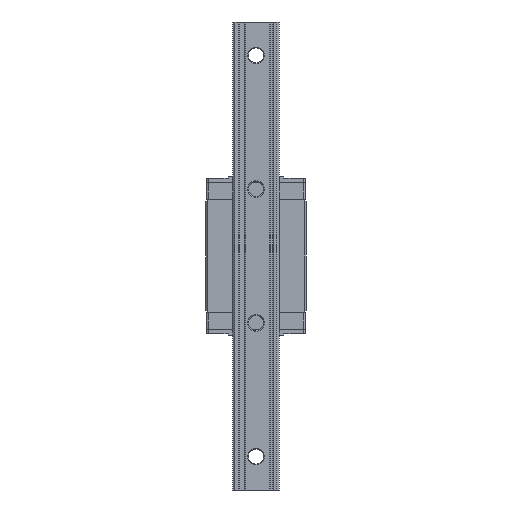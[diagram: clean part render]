
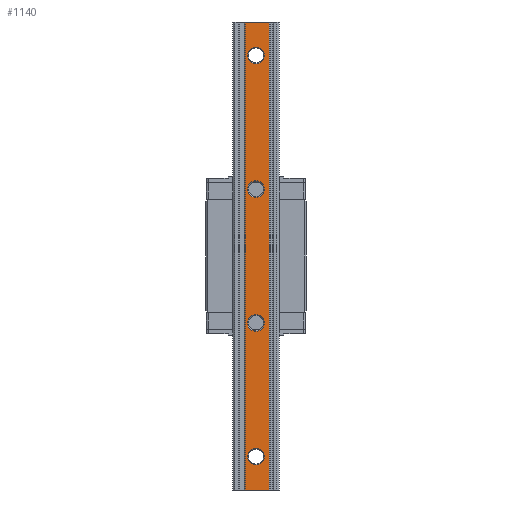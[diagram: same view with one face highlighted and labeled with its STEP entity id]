
A CAD part, front view. The second image highlights one B-rep face of the part: STEP entity #1140.
In plain terms, the highlighted planar face has unit normal (0, -1, 0).
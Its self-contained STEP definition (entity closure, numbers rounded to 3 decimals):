
#81 = EDGE_LOOP ( 'NONE', ( #10466, #1139 ) ) ;
#234 = ORIENTED_EDGE ( 'NONE', *, *, #8048, .F. ) ;
#465 = EDGE_CURVE ( 'NONE', #13525, #17528, #5780, .T. ) ;
#817 = CARTESIAN_POINT ( 'NONE',  ( -6.5, -22.8, 140. ) ) ;
#1001 = CARTESIAN_POINT ( 'NONE',  ( 0., -22.8, -45. ) ) ;
#1036 = DIRECTION ( 'NONE',  ( 0., 0., 1. ) ) ;
#1132 = ORIENTED_EDGE ( 'NONE', *, *, #7396, .T. ) ;
#1139 = ORIENTED_EDGE ( 'NONE', *, *, #18065, .T. ) ;
#1140 = ADVANCED_FACE ( 'NONE', ( #6988, #7430, #11222, #17123, #9783 ), #14235, .F. ) ;
#1448 = CARTESIAN_POINT ( 'NONE',  ( -6.5, -22.8, 140. ) ) ;
#1937 = CIRCLE ( 'NONE', #11774, 5. ) ;
#2446 = AXIS2_PLACEMENT_3D ( 'NONE', #2466, #6898, #8436 ) ;
#2463 = CARTESIAN_POINT ( 'NONE',  ( 0., -22.8, 40. ) ) ;
#2466 = CARTESIAN_POINT ( 'NONE',  ( -6.5, -22.8, 140. ) ) ;
#2493 = VECTOR ( 'NONE', #17265, 1000. ) ;
#2805 = LINE ( 'NONE', #11365, #2493 ) ;
#3306 = AXIS2_PLACEMENT_3D ( 'NONE', #11834, #6038, #17726 ) ;
#3368 = AXIS2_PLACEMENT_3D ( 'NONE', #4239, #17723, #11832 ) ;
#3412 = ORIENTED_EDGE ( 'NONE', *, *, #3823, .T. ) ;
#3739 = DIRECTION ( 'NONE',  ( 0., 1., 0. ) ) ;
#3823 = EDGE_CURVE ( 'NONE', #12380, #6261, #11601, .T. ) ;
#4159 = VERTEX_POINT ( 'NONE', #14047 ) ;
#4239 = CARTESIAN_POINT ( 'NONE',  ( 0., -22.8, 40. ) ) ;
#4322 = EDGE_CURVE ( 'NONE', #4696, #14322, #7845, .T. ) ;
#4344 = CARTESIAN_POINT ( 'NONE',  ( 0., -22.8, 35. ) ) ;
#4696 = VERTEX_POINT ( 'NONE', #817 ) ;
#4779 = CARTESIAN_POINT ( 'NONE',  ( -6.5, -22.8, 140. ) ) ;
#4845 = DIRECTION ( 'NONE',  ( 0., 0., 1. ) ) ;
#4998 = CARTESIAN_POINT ( 'NONE',  ( 0., -22.8, -115. ) ) ;
#5289 = EDGE_CURVE ( 'NONE', #13408, #10338, #1937, .T. ) ;
#5780 = CIRCLE ( 'NONE', #10417, 5. ) ;
#5816 = AXIS2_PLACEMENT_3D ( 'NONE', #9967, #18849, #6975 ) ;
#5928 = VECTOR ( 'NONE', #10838, 1000. ) ;
#6038 = DIRECTION ( 'NONE',  ( 0., 1., 0. ) ) ;
#6057 = AXIS2_PLACEMENT_3D ( 'NONE', #16403, #11952, #17843 ) ;
#6132 = CARTESIAN_POINT ( 'NONE',  ( 0., -22.8, 125. ) ) ;
#6149 = AXIS2_PLACEMENT_3D ( 'NONE', #18395, #3739, #12310 ) ;
#6261 = VERTEX_POINT ( 'NONE', #1001 ) ;
#6658 = EDGE_CURVE ( 'NONE', #4159, #12382, #2805, .T. ) ;
#6898 = DIRECTION ( 'NONE',  ( 0., 1., 0. ) ) ;
#6975 = DIRECTION ( 'NONE',  ( 0., 0., 1. ) ) ;
#6988 = FACE_BOUND ( 'NONE', #12867, .T. ) ;
#7396 = EDGE_CURVE ( 'NONE', #6261, #12380, #12518, .T. ) ;
#7430 = FACE_BOUND ( 'NONE', #10547, .T. ) ;
#7819 = DIRECTION ( 'NONE',  ( 0., 1., 0. ) ) ;
#7845 = LINE ( 'NONE', #4779, #5928 ) ;
#8048 = EDGE_CURVE ( 'NONE', #4696, #4159, #10369, .T. ) ;
#8436 = DIRECTION ( 'NONE',  ( 0., 0., 1. ) ) ;
#8724 = CARTESIAN_POINT ( 'NONE',  ( 8., -22.8, -140. ) ) ;
#9334 = CARTESIAN_POINT ( 'NONE',  ( 0., -22.8, 115. ) ) ;
#9404 = AXIS2_PLACEMENT_3D ( 'NONE', #15069, #7819, #4845 ) ;
#9783 = FACE_OUTER_BOUND ( 'NONE', #13664, .T. ) ;
#9820 = CARTESIAN_POINT ( 'NONE',  ( -6.5, -22.8, -140. ) ) ;
#9967 = CARTESIAN_POINT ( 'NONE',  ( 0., -22.8, 120. ) ) ;
#10236 = EDGE_CURVE ( 'NONE', #14492, #11313, #15581, .T. ) ;
#10338 = VERTEX_POINT ( 'NONE', #18344 ) ;
#10369 = LINE ( 'NONE', #1448, #11926 ) ;
#10417 = AXIS2_PLACEMENT_3D ( 'NONE', #13965, #15316, #17054 ) ;
#10466 = ORIENTED_EDGE ( 'NONE', *, *, #465, .T. ) ;
#10537 = ORIENTED_EDGE ( 'NONE', *, *, #11304, .T. ) ;
#10547 = EDGE_LOOP ( 'NONE', ( #14697, #10537 ) ) ;
#10838 = DIRECTION ( 'NONE',  ( 0., 0., -1. ) ) ;
#11222 = FACE_BOUND ( 'NONE', #12059, .T. ) ;
#11304 = EDGE_CURVE ( 'NONE', #11313, #14492, #18494, .T. ) ;
#11313 = VERTEX_POINT ( 'NONE', #4998 ) ;
#11365 = CARTESIAN_POINT ( 'NONE',  ( 8., -22.8, 140. ) ) ;
#11373 = ORIENTED_EDGE ( 'NONE', *, *, #6658, .F. ) ;
#11601 = CIRCLE ( 'NONE', #3306, 5. ) ;
#11631 = DIRECTION ( 'NONE',  ( 1., 0., 0. ) ) ;
#11774 = AXIS2_PLACEMENT_3D ( 'NONE', #2463, #12967, #1036 ) ;
#11832 = DIRECTION ( 'NONE',  ( 0., 0., 1. ) ) ;
#11834 = CARTESIAN_POINT ( 'NONE',  ( 0., -22.8, -40. ) ) ;
#11926 = VECTOR ( 'NONE', #11631, 1000. ) ;
#11952 = DIRECTION ( 'NONE',  ( 0., 1., 0. ) ) ;
#12059 = EDGE_LOOP ( 'NONE', ( #18639, #15648 ) ) ;
#12083 = ORIENTED_EDGE ( 'NONE', *, *, #17367, .T. ) ;
#12310 = DIRECTION ( 'NONE',  ( 0., 0., 1. ) ) ;
#12380 = VERTEX_POINT ( 'NONE', #16065 ) ;
#12382 = VERTEX_POINT ( 'NONE', #8724 ) ;
#12518 = CIRCLE ( 'NONE', #6057, 5. ) ;
#12867 = EDGE_LOOP ( 'NONE', ( #1132, #3412 ) ) ;
#12967 = DIRECTION ( 'NONE',  ( 0., 1., 0. ) ) ;
#13203 = CIRCLE ( 'NONE', #3368, 5. ) ;
#13408 = VERTEX_POINT ( 'NONE', #4344 ) ;
#13525 = VERTEX_POINT ( 'NONE', #9334 ) ;
#13664 = EDGE_LOOP ( 'NONE', ( #12083, #11373, #234, #15151 ) ) ;
#13965 = CARTESIAN_POINT ( 'NONE',  ( 0., -22.8, 120. ) ) ;
#14047 = CARTESIAN_POINT ( 'NONE',  ( 8., -22.8, 140. ) ) ;
#14155 = CIRCLE ( 'NONE', #5816, 5. ) ;
#14235 = PLANE ( 'NONE',  #2446 ) ;
#14274 = DIRECTION ( 'NONE',  ( 1., 0., 0. ) ) ;
#14322 = VERTEX_POINT ( 'NONE', #15826 ) ;
#14452 = VECTOR ( 'NONE', #14274, 1000. ) ;
#14492 = VERTEX_POINT ( 'NONE', #17650 ) ;
#14697 = ORIENTED_EDGE ( 'NONE', *, *, #10236, .T. ) ;
#15069 = CARTESIAN_POINT ( 'NONE',  ( 0., -22.8, -120. ) ) ;
#15151 = ORIENTED_EDGE ( 'NONE', *, *, #4322, .T. ) ;
#15316 = DIRECTION ( 'NONE',  ( 0., 1., 0. ) ) ;
#15519 = LINE ( 'NONE', #9820, #14452 ) ;
#15581 = CIRCLE ( 'NONE', #9404, 5. ) ;
#15648 = ORIENTED_EDGE ( 'NONE', *, *, #17409, .T. ) ;
#15826 = CARTESIAN_POINT ( 'NONE',  ( -6.5, -22.8, -140. ) ) ;
#16065 = CARTESIAN_POINT ( 'NONE',  ( 0., -22.8, -35. ) ) ;
#16403 = CARTESIAN_POINT ( 'NONE',  ( 0., -22.8, -40. ) ) ;
#17054 = DIRECTION ( 'NONE',  ( 0., 0., 1. ) ) ;
#17123 = FACE_BOUND ( 'NONE', #81, .T. ) ;
#17265 = DIRECTION ( 'NONE',  ( 0., 0., -1. ) ) ;
#17367 = EDGE_CURVE ( 'NONE', #14322, #12382, #15519, .T. ) ;
#17409 = EDGE_CURVE ( 'NONE', #10338, #13408, #13203, .T. ) ;
#17528 = VERTEX_POINT ( 'NONE', #6132 ) ;
#17650 = CARTESIAN_POINT ( 'NONE',  ( 0., -22.8, -125. ) ) ;
#17723 = DIRECTION ( 'NONE',  ( 0., 1., 0. ) ) ;
#17726 = DIRECTION ( 'NONE',  ( 0., 0., 1. ) ) ;
#17843 = DIRECTION ( 'NONE',  ( 0., 0., 1. ) ) ;
#18065 = EDGE_CURVE ( 'NONE', #17528, #13525, #14155, .T. ) ;
#18344 = CARTESIAN_POINT ( 'NONE',  ( 0., -22.8, 45. ) ) ;
#18395 = CARTESIAN_POINT ( 'NONE',  ( 0., -22.8, -120. ) ) ;
#18494 = CIRCLE ( 'NONE', #6149, 5. ) ;
#18639 = ORIENTED_EDGE ( 'NONE', *, *, #5289, .T. ) ;
#18849 = DIRECTION ( 'NONE',  ( 0., 1., 0. ) ) ;
